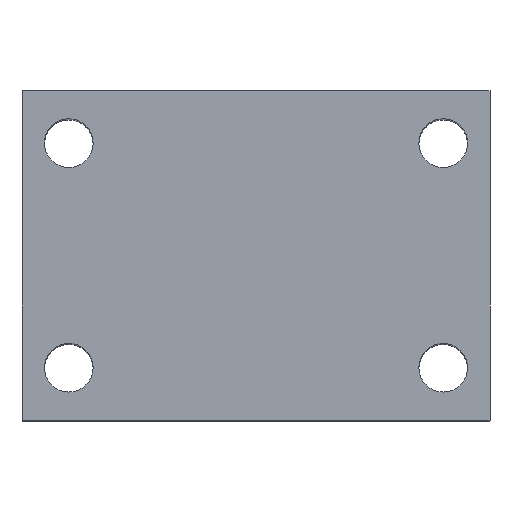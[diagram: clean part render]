
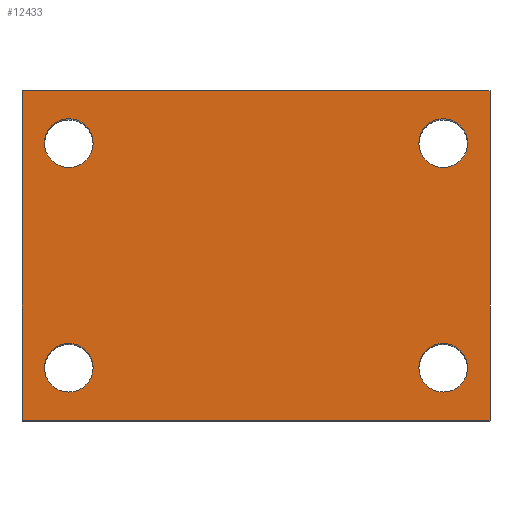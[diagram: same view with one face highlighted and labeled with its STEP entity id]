
A CAD part, top view. The second image highlights one B-rep face of the part: STEP entity #12433.
In plain terms, the highlighted planar face has unit normal (0, 0, 1).
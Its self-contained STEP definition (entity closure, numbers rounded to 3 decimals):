
#266 = AXIS2_PLACEMENT_3D ( 'NONE', #10548, #2611, #11920 ) ;
#338 = EDGE_CURVE ( 'NONE', #13161, #6288, #11193, .T. ) ;
#344 = CARTESIAN_POINT ( 'NONE',  ( 50., 74., 50. ) ) ;
#477 = EDGE_CURVE ( 'NONE', #979, #11537, #14663, .T. ) ;
#674 = EDGE_CURVE ( 'NONE', #3293, #16708, #5947, .T. ) ;
#693 = CIRCLE ( 'NONE', #17036, 6.5 ) ;
#766 = PLANE ( 'NONE',  #10772 ) ;
#787 = EDGE_CURVE ( 'NONE', #11537, #979, #5517, .T. ) ;
#979 = VERTEX_POINT ( 'NONE', #1085 ) ;
#1085 = CARTESIAN_POINT ( 'NONE',  ( 56.5, 14., 50. ) ) ;
#1195 = DIRECTION ( 'NONE',  ( -1., 0., 0. ) ) ;
#1231 = FACE_BOUND ( 'NONE', #14304, .T. ) ;
#1746 = EDGE_CURVE ( 'NONE', #5791, #5723, #5499, .T. ) ;
#1961 = ORIENTED_EDGE ( 'NONE', *, *, #17305, .T. ) ;
#2010 = VERTEX_POINT ( 'NONE', #10445 ) ;
#2162 = ORIENTED_EDGE ( 'NONE', *, *, #16220, .T. ) ;
#2174 = CARTESIAN_POINT ( 'NONE',  ( -50., 74., 50. ) ) ;
#2288 = DIRECTION ( 'NONE',  ( 0., -1., 0. ) ) ;
#2501 = VECTOR ( 'NONE', #10950, 1000. ) ;
#2553 = ORIENTED_EDGE ( 'NONE', *, *, #338, .T. ) ;
#2597 = EDGE_CURVE ( 'NONE', #15029, #2010, #14838, .T. ) ;
#2611 = DIRECTION ( 'NONE',  ( 0., 0., -1. ) ) ;
#2986 = CIRCLE ( 'NONE', #5088, 6.5 ) ;
#3293 = VERTEX_POINT ( 'NONE', #16773 ) ;
#3336 = ORIENTED_EDGE ( 'NONE', *, *, #17160, .T. ) ;
#3440 = DIRECTION ( 'NONE',  ( -1., 0., 0. ) ) ;
#3686 = FACE_BOUND ( 'NONE', #10901, .T. ) ;
#3694 = CARTESIAN_POINT ( 'NONE',  ( 50., 74., 50. ) ) ;
#3698 = AXIS2_PLACEMENT_3D ( 'NONE', #2174, #11424, #3440 ) ;
#3757 = DIRECTION ( 'NONE',  ( -1., 0., 0. ) ) ;
#4354 = ORIENTED_EDGE ( 'NONE', *, *, #674, .F. ) ;
#4384 = DIRECTION ( 'NONE',  ( -1., 0., 0. ) ) ;
#4652 = VECTOR ( 'NONE', #14362, 1000. ) ;
#4658 = CARTESIAN_POINT ( 'NONE',  ( -56.5, 14., 50. ) ) ;
#4688 = CIRCLE ( 'NONE', #266, 6.5 ) ;
#4702 = FACE_BOUND ( 'NONE', #11269, .T. ) ;
#4776 = ORIENTED_EDGE ( 'NONE', *, *, #15318, .F. ) ;
#4785 = CARTESIAN_POINT ( 'NONE',  ( -62.5, 88., 50. ) ) ;
#5006 = AXIS2_PLACEMENT_3D ( 'NONE', #10316, #10248, #4384 ) ;
#5012 = DIRECTION ( 'NONE',  ( -1., 0., 0. ) ) ;
#5046 = LINE ( 'NONE', #8865, #15202 ) ;
#5088 = AXIS2_PLACEMENT_3D ( 'NONE', #14973, #7066, #16331 ) ;
#5194 = EDGE_CURVE ( 'NONE', #3293, #5399, #5046, .T. ) ;
#5399 = VERTEX_POINT ( 'NONE', #5765 ) ;
#5495 = DIRECTION ( 'NONE',  ( 0., 0., -1. ) ) ;
#5499 = CIRCLE ( 'NONE', #13318, 6.5 ) ;
#5517 = CIRCLE ( 'NONE', #13103, 6.5 ) ;
#5645 = CARTESIAN_POINT ( 'NONE',  ( -56.5, 74., 50. ) ) ;
#5662 = CARTESIAN_POINT ( 'NONE',  ( 62.5, 0., 50. ) ) ;
#5723 = VERTEX_POINT ( 'NONE', #13806 ) ;
#5765 = CARTESIAN_POINT ( 'NONE',  ( -62.5, 0., 50. ) ) ;
#5791 = VERTEX_POINT ( 'NONE', #4658 ) ;
#5947 = LINE ( 'NONE', #4785, #2501 ) ;
#6288 = VERTEX_POINT ( 'NONE', #14453 ) ;
#6433 = CARTESIAN_POINT ( 'NONE',  ( 43.5, 14., 50. ) ) ;
#7066 = DIRECTION ( 'NONE',  ( 0., 0., -1. ) ) ;
#7114 = CARTESIAN_POINT ( 'NONE',  ( 56.5, 74., 50. ) ) ;
#7293 = ORIENTED_EDGE ( 'NONE', *, *, #787, .T. ) ;
#7796 = LINE ( 'NONE', #10718, #10490 ) ;
#7811 = LINE ( 'NONE', #9068, #4652 ) ;
#8137 = ORIENTED_EDGE ( 'NONE', *, *, #1746, .T. ) ;
#8865 = CARTESIAN_POINT ( 'NONE',  ( -62.5, 88., 50. ) ) ;
#9068 = CARTESIAN_POINT ( 'NONE',  ( 62.5, 88., 50. ) ) ;
#9111 = FACE_BOUND ( 'NONE', #11994, .T. ) ;
#9183 = DIRECTION ( 'NONE',  ( -1., 0., 0. ) ) ;
#9200 = DIRECTION ( 'NONE',  ( 0., 0., -1. ) ) ;
#9205 = CARTESIAN_POINT ( 'NONE',  ( 50., 14., 50. ) ) ;
#10186 = EDGE_LOOP ( 'NONE', ( #2162, #4776, #4354, #17283 ) ) ;
#10248 = DIRECTION ( 'NONE',  ( 0., 0., -1. ) ) ;
#10316 = CARTESIAN_POINT ( 'NONE',  ( 50., 14., 50. ) ) ;
#10407 = CARTESIAN_POINT ( 'NONE',  ( -62.5, 88., 50. ) ) ;
#10427 = ORIENTED_EDGE ( 'NONE', *, *, #477, .T. ) ;
#10445 = CARTESIAN_POINT ( 'NONE',  ( -43.5, 74., 50. ) ) ;
#10490 = VECTOR ( 'NONE', #12095, 1000. ) ;
#10548 = CARTESIAN_POINT ( 'NONE',  ( -50., 14., 50. ) ) ;
#10718 = CARTESIAN_POINT ( 'NONE',  ( -62.5, 0., 50. ) ) ;
#10772 = AXIS2_PLACEMENT_3D ( 'NONE', #10407, #11791, #3757 ) ;
#10901 = EDGE_LOOP ( 'NONE', ( #7293, #10427 ) ) ;
#10950 = DIRECTION ( 'NONE',  ( 1., 0., 0. ) ) ;
#11193 = CIRCLE ( 'NONE', #15103, 6.5 ) ;
#11255 = ORIENTED_EDGE ( 'NONE', *, *, #13337, .T. ) ;
#11269 = EDGE_LOOP ( 'NONE', ( #12560, #1961 ) ) ;
#11424 = DIRECTION ( 'NONE',  ( 0., 0., -1. ) ) ;
#11537 = VERTEX_POINT ( 'NONE', #6433 ) ;
#11791 = DIRECTION ( 'NONE',  ( 0., 0., -1. ) ) ;
#11815 = DIRECTION ( 'NONE',  ( -1., 0., 0. ) ) ;
#11818 = DIRECTION ( 'NONE',  ( 0., 0., -1. ) ) ;
#11920 = DIRECTION ( 'NONE',  ( -1., 0., 0. ) ) ;
#11994 = EDGE_LOOP ( 'NONE', ( #8137, #11255 ) ) ;
#12095 = DIRECTION ( 'NONE',  ( 1., 0., 0. ) ) ;
#12209 = VERTEX_POINT ( 'NONE', #5662 ) ;
#12433 = ADVANCED_FACE ( 'NONE', ( #4702, #9111, #3686, #1231, #14862 ), #766, .F. ) ;
#12560 = ORIENTED_EDGE ( 'NONE', *, *, #2597, .T. ) ;
#13053 = DIRECTION ( 'NONE',  ( 0., 0., -1. ) ) ;
#13103 = AXIS2_PLACEMENT_3D ( 'NONE', #9205, #9200, #9183 ) ;
#13128 = CARTESIAN_POINT ( 'NONE',  ( -50., 14., 50. ) ) ;
#13161 = VERTEX_POINT ( 'NONE', #7114 ) ;
#13318 = AXIS2_PLACEMENT_3D ( 'NONE', #13128, #11818, #11815 ) ;
#13337 = EDGE_CURVE ( 'NONE', #5723, #5791, #4688, .T. ) ;
#13806 = CARTESIAN_POINT ( 'NONE',  ( -43.5, 14., 50. ) ) ;
#14304 = EDGE_LOOP ( 'NONE', ( #3336, #2553 ) ) ;
#14362 = DIRECTION ( 'NONE',  ( 0., -1., 0. ) ) ;
#14453 = CARTESIAN_POINT ( 'NONE',  ( 43.5, 74., 50. ) ) ;
#14663 = CIRCLE ( 'NONE', #5006, 6.5 ) ;
#14838 = CIRCLE ( 'NONE', #3698, 6.5 ) ;
#14862 = FACE_OUTER_BOUND ( 'NONE', #10186, .T. ) ;
#14973 = CARTESIAN_POINT ( 'NONE',  ( -50., 74., 50. ) ) ;
#15029 = VERTEX_POINT ( 'NONE', #5645 ) ;
#15103 = AXIS2_PLACEMENT_3D ( 'NONE', #344, #5495, #1195 ) ;
#15202 = VECTOR ( 'NONE', #2288, 1000. ) ;
#15318 = EDGE_CURVE ( 'NONE', #16708, #12209, #7811, .T. ) ;
#16220 = EDGE_CURVE ( 'NONE', #5399, #12209, #7796, .T. ) ;
#16331 = DIRECTION ( 'NONE',  ( -1., 0., 0. ) ) ;
#16708 = VERTEX_POINT ( 'NONE', #17323 ) ;
#16773 = CARTESIAN_POINT ( 'NONE',  ( -62.5, 88., 50. ) ) ;
#17036 = AXIS2_PLACEMENT_3D ( 'NONE', #3694, #13053, #5012 ) ;
#17160 = EDGE_CURVE ( 'NONE', #6288, #13161, #693, .T. ) ;
#17283 = ORIENTED_EDGE ( 'NONE', *, *, #5194, .T. ) ;
#17305 = EDGE_CURVE ( 'NONE', #2010, #15029, #2986, .T. ) ;
#17323 = CARTESIAN_POINT ( 'NONE',  ( 62.5, 88., 50. ) ) ;
